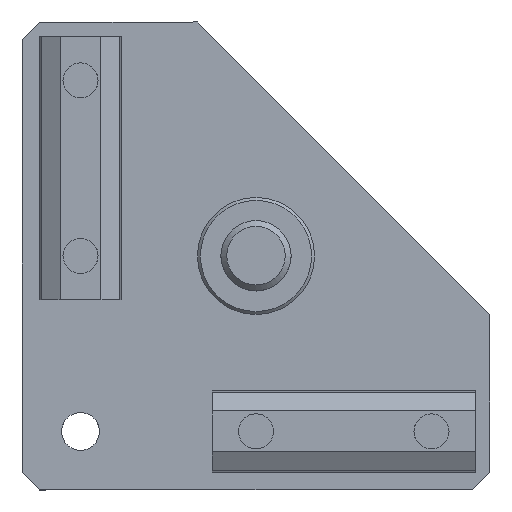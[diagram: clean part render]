
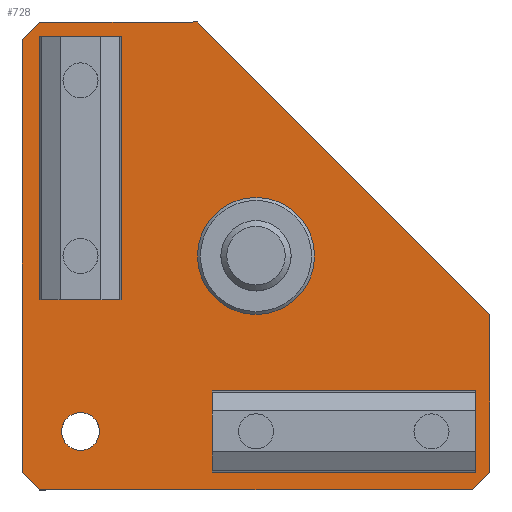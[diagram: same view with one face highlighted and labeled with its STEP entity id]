
A CAD part, top view. The second image highlights one B-rep face of the part: STEP entity #728.
In plain terms, the highlighted planar face has unit normal (0, 0, 1) as drawn and (0, 0, -1) by its records, which use the part's own axes.
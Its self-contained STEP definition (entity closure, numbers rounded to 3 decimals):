
#728=ADVANCED_FACE('',(#1316,#1317,#1318,#1319,#1320,#1321,#1322),#1323,.F.);
#1316=FACE_BOUND('',#1903,.T.);
#1317=FACE_BOUND('',#1904,.T.);
#1318=FACE_BOUND('',#1905,.T.);
#1319=FACE_BOUND('',#1906,.T.);
#1320=FACE_OUTER_BOUND('',#1907,.T.);
#1321=FACE_BOUND('',#1908,.T.);
#1322=FACE_BOUND('',#1909,.T.);
#1323=PLANE('',#1910);
#1903=EDGE_LOOP('',(#2964));
#1904=EDGE_LOOP('',(#2965));
#1905=EDGE_LOOP('',(#2966));
#1906=EDGE_LOOP('',(#2967));
#1907=EDGE_LOOP('',(#2968,#2969,#2970,#2971,#2972,#2973,#2974,#2975));
#1908=EDGE_LOOP('',(#2976));
#1909=EDGE_LOOP('',(#2977));
#1910=AXIS2_PLACEMENT_3D('',#2978,#2979,#2980);
#2964=ORIENTED_EDGE('',*,*,#3684,.T.);
#2965=ORIENTED_EDGE('',*,*,#3685,.F.);
#2966=ORIENTED_EDGE('',*,*,#3686,.F.);
#2967=ORIENTED_EDGE('',*,*,#3687,.F.);
#2968=ORIENTED_EDGE('',*,*,#3688,.F.);
#2969=ORIENTED_EDGE('',*,*,#3689,.F.);
#2970=ORIENTED_EDGE('',*,*,#3690,.F.);
#2971=ORIENTED_EDGE('',*,*,#3691,.F.);
#2972=ORIENTED_EDGE('',*,*,#3692,.F.);
#2973=ORIENTED_EDGE('',*,*,#3693,.F.);
#2974=ORIENTED_EDGE('',*,*,#3694,.F.);
#2975=ORIENTED_EDGE('',*,*,#3695,.F.);
#2976=ORIENTED_EDGE('',*,*,#3696,.F.);
#2977=ORIENTED_EDGE('',*,*,#3697,.F.);
#2978=CARTESIAN_POINT('',(189.639,-429.486,-217.539));
#2979=DIRECTION('',(0.0,0.0,1.0));
#2980=DIRECTION('',(1.0,0.0,0.0));
#3684=EDGE_CURVE('',#4306,#4306,#4307,.T.);
#3685=EDGE_CURVE('',#4308,#4308,#4309,.T.);
#3686=EDGE_CURVE('',#4310,#4310,#4311,.T.);
#3687=EDGE_CURVE('',#4312,#4312,#4313,.T.);
#3688=EDGE_CURVE('',#4314,#4315,#4316,.T.);
#3689=EDGE_CURVE('',#4317,#4314,#4318,.T.);
#3690=EDGE_CURVE('',#4319,#4317,#4320,.T.);
#3691=EDGE_CURVE('',#4321,#4319,#4322,.T.);
#3692=EDGE_CURVE('',#4323,#4321,#4324,.T.);
#3693=EDGE_CURVE('',#4325,#4323,#4326,.T.);
#3694=EDGE_CURVE('',#4327,#4325,#4328,.T.);
#3695=EDGE_CURVE('',#4315,#4327,#4329,.T.);
#3696=EDGE_CURVE('',#4330,#4330,#4331,.T.);
#3697=EDGE_CURVE('',#4332,#4332,#4333,.T.);
#4306=VERTEX_POINT('',#5147);
#4307=CIRCLE('',#5148,10.0);
#4308=VERTEX_POINT('',#5149);
#4309=CIRCLE('',#5150,3.25);
#4310=VERTEX_POINT('',#5151);
#4311=CIRCLE('',#5152,3.25);
#4312=VERTEX_POINT('',#5153);
#4313=CIRCLE('',#5154,3.25);
#4314=VERTEX_POINT('',#5155);
#4315=VERTEX_POINT('',#5156);
#4316=LINE('',#5157,#5158);
#4317=VERTEX_POINT('',#5159);
#4318=LINE('',#5160,#5161);
#4319=VERTEX_POINT('',#5162);
#4320=LINE('',#5163,#5164);
#4321=VERTEX_POINT('',#5165);
#4322=LINE('',#5166,#5167);
#4323=VERTEX_POINT('',#5168);
#4324=LINE('',#5169,#5170);
#4325=VERTEX_POINT('',#5171);
#4326=LINE('',#5172,#5173);
#4327=VERTEX_POINT('',#5174);
#4328=LINE('',#5175,#5176);
#4329=LINE('',#5177,#5178);
#4330=VERTEX_POINT('',#5179);
#4331=CIRCLE('',#5180,3.25);
#4332=VERTEX_POINT('',#5181);
#4333=CIRCLE('',#5182,3.25);
#5147=CARTESIAN_POINT('',(220.508,-405.478,-217.539));
#5148=AXIS2_PLACEMENT_3D('',#5889,#5890,#5891);
#5149=CARTESIAN_POINT('',(187.258,-425.478,-217.539));
#5150=AXIS2_PLACEMENT_3D('',#5892,#5893,#5894);
#5151=CARTESIAN_POINT('',(247.258,-395.478,-217.539));
#5152=AXIS2_PLACEMENT_3D('',#5895,#5896,#5897);
#5153=CARTESIAN_POINT('',(247.258,-365.478,-217.539));
#5154=AXIS2_PLACEMENT_3D('',#5898,#5899,#5900);
#5155=CARTESIAN_POINT('',(260.508,-432.478,-217.539));
#5156=CARTESIAN_POINT('',(260.508,-358.478,-217.539));
#5157=CARTESIAN_POINT('',(260.508,-432.478,-217.539));
#5158=VECTOR('',#5901,1.0);
#5159=CARTESIAN_POINT('',(257.508,-435.478,-217.539));
#5160=CARTESIAN_POINT('',(257.508,-435.478,-217.539));
#5161=VECTOR('',#5902,1.0);
#5162=CARTESIAN_POINT('',(183.508,-435.478,-217.539));
#5163=CARTESIAN_POINT('',(183.508,-435.478,-217.539));
#5164=VECTOR('',#5903,1.0);
#5165=CARTESIAN_POINT('',(180.508,-432.478,-217.539));
#5166=CARTESIAN_POINT('',(180.508,-432.478,-217.539));
#5167=VECTOR('',#5904,1.0);
#5168=CARTESIAN_POINT('',(180.508,-405.478,-217.539));
#5169=CARTESIAN_POINT('',(180.508,-405.478,-217.539));
#5170=VECTOR('',#5905,1.0);
#5171=CARTESIAN_POINT('',(230.508,-355.478,-217.539));
#5172=CARTESIAN_POINT('',(230.508,-355.478,-217.539));
#5173=VECTOR('',#5906,1.0);
#5174=CARTESIAN_POINT('',(257.508,-355.478,-217.539));
#5175=CARTESIAN_POINT('',(257.508,-355.478,-217.539));
#5176=VECTOR('',#5907,1.0);
#5177=CARTESIAN_POINT('',(260.508,-358.478,-217.539));
#5178=VECTOR('',#5908,1.0);
#5179=CARTESIAN_POINT('',(247.258,-425.478,-217.539));
#5180=AXIS2_PLACEMENT_3D('',#5909,#5910,#5911);
#5181=CARTESIAN_POINT('',(217.258,-425.478,-217.539));
#5182=AXIS2_PLACEMENT_3D('',#5912,#5913,#5914);
#5889=CARTESIAN_POINT('',(220.508,-395.478,-217.539));
#5890=DIRECTION('',(0.0,0.,1.0));
#5891=DIRECTION('',(0.0,-1.0,0.));
#5892=CARTESIAN_POINT('',(190.508,-425.478,-217.539));
#5893=DIRECTION('',(0.0,0.0,-1.0));
#5894=DIRECTION('',(-1.0,0.0,0.0));
#5895=CARTESIAN_POINT('',(250.508,-395.478,-217.539));
#5896=DIRECTION('',(0.0,0.0,-1.0));
#5897=DIRECTION('',(-1.0,0.0,0.0));
#5898=CARTESIAN_POINT('',(250.508,-365.478,-217.539));
#5899=DIRECTION('',(0.0,0.0,-1.0));
#5900=DIRECTION('',(-1.0,0.0,0.0));
#5901=DIRECTION('',(0.0,1.0,0.0));
#5902=DIRECTION('',(0.707,0.707,0.0));
#5903=DIRECTION('',(1.0,0.0,0.0));
#5904=DIRECTION('',(0.707,-0.707,0.0));
#5905=DIRECTION('',(0.0,-1.0,0.0));
#5906=DIRECTION('',(-0.707,-0.707,0.0));
#5907=DIRECTION('',(-1.0,0.0,0.0));
#5908=DIRECTION('',(-0.707,0.707,0.0));
#5909=CARTESIAN_POINT('',(250.508,-425.478,-217.539));
#5910=DIRECTION('',(0.0,0.0,-1.0));
#5911=DIRECTION('',(-1.0,0.0,0.0));
#5912=CARTESIAN_POINT('',(220.508,-425.478,-217.539));
#5913=DIRECTION('',(0.0,0.0,-1.0));
#5914=DIRECTION('',(-1.0,0.0,0.0));
